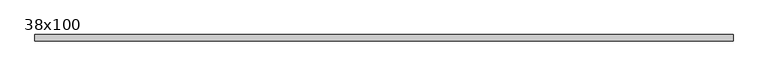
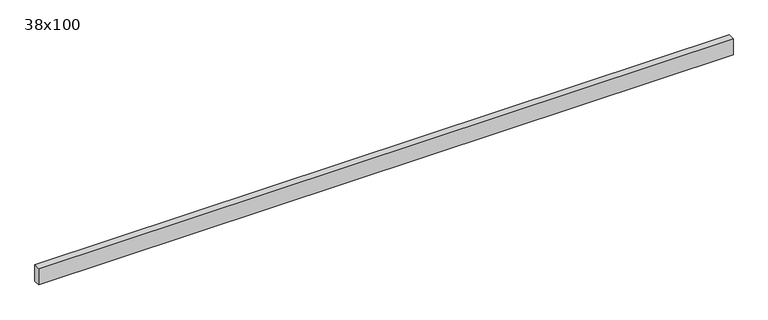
"""IFC4 building model written with IfcOpenShell, lengths in millimetres: beam geometry, Poutre - Bois de construction de dimensions courantes : 38x100."""

from ifc_helpers import new_model, si_unit, frame, origin, place, context, project, spatial, polyline, outline, extrude, source, transform, mapped, element, save


def beam_38x100_34bae3a7(model_context):
    return source(origin(), model_context, "Body", "SweptSolid", [
        extrude(outline(polyline([(2031.5, 19.05), (2031.5, -19.05), (-2031.5, -19.05), (-2031.5, 19.05), (2031.5, 19.05)])), frame((0.0, 0.0, -50.0), z_axis=(0.0, 0.0, 1.0), x_axis=(1.0, 0.0, 0.0)), (0.0, 0.0, 1.0), 100.0),
    ])


if __name__ == "__main__":
    model = new_model("IFC4")
    model_context = context("Model", 3, world=origin())
    ifc_project = project(units=[si_unit("LENGTHUNIT", "METRE", prefix="MILLI")], contexts=[model_context])
    site = spatial("IfcSite", under=ifc_project)
    building = spatial("IfcBuilding", under=site)
    placement = place(None, origin())
    beam_38x100_shape = beam_38x100_34bae3a7(model_context)
    element("IfcBeam", 1, ObjectType="Poutre - Bois de construction de dimensions courantes : 38x100", at=placement, inside=building, context=model_context, shape_type="MappedRepresentation", body=[
        mapped(beam_38x100_shape, transform((0.0, 0.0, 0.0), x_axis=(1.0, 0.0, 0.0), y_axis=(0.0, 1.0, 0.0), z_axis=(0.0, 0.0, 1.0))),
    ])
    save(model, "model.ifc")
